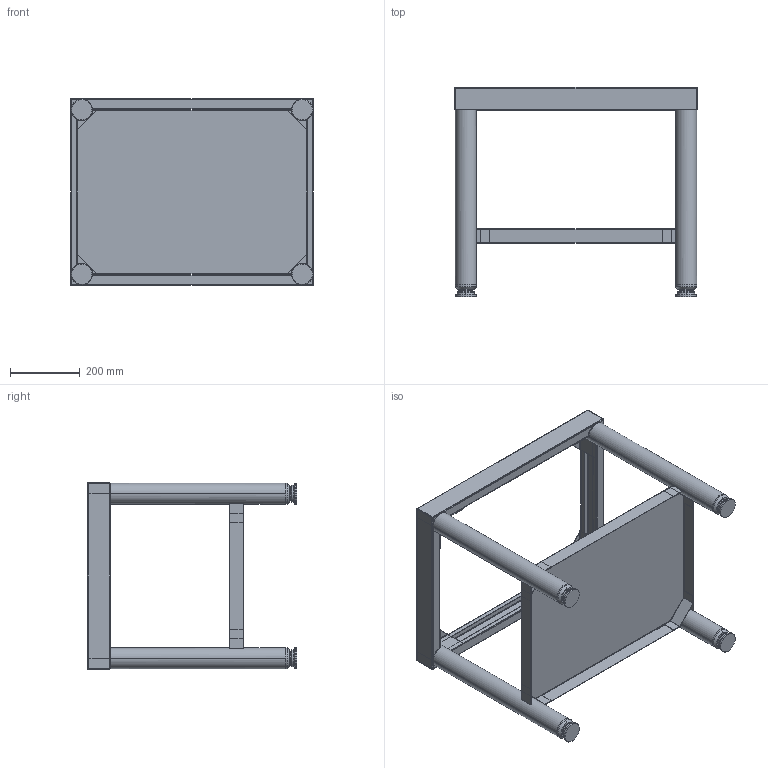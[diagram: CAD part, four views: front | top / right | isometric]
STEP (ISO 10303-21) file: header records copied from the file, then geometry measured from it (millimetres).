
FILE_DESCRIPTION((''),'2;1');
FILE_NAME('SSK700_EXPORT_STEP','2017-11-23T',('r.avril'),(''),'PRO/ENGINEER BY PARAMETRIC TECHNOLOGY CORPORATION, 2014200','PRO/ENGINEER BY PARAMETRIC TECHNOLOGY CORPORATION, 2014200','');
FILE_SCHEMA(('AP203_CONFIGURATION_CONTROLLED_3D_DESIGN_OF_MECHANICAL_PARTS_AND_ASSEMBLIES_MIM_LF { 1 0 10303 403 2 1 2 }'));
Length unit declared in the file: millimetre
Products named in the file (1): SSK700_EXPORT_STEP
Bounding box: 695 x 600 x 535 mm (x, y, z)
Volume: 2089943.7 mm3; surface area: 2469889.9 mm2
Topology: 14 solids, 14 shells, 387 faces, 960 edges, 592 vertices
Faces by surface type: plane 251, cylinder 88, torus 24, cone 16, sphere 8
Entity records: 12512 total; most frequent: CARTESIAN_POINT 2159, DIRECTION 2025, ORIENTED_EDGE 1920, EDGE_CURVE 960, AXIS2_PLACEMENT_3D 703, VECTOR 616, LINE 616, VERTEX_POINT 592
